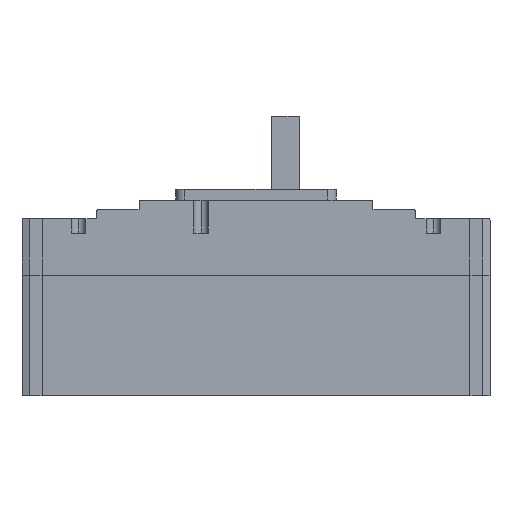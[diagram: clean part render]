
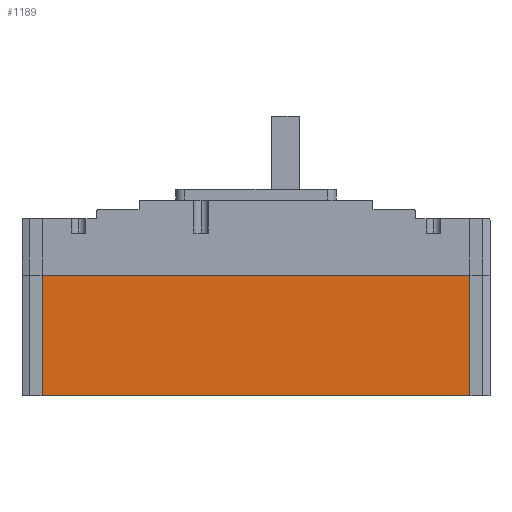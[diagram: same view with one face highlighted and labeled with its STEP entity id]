
A CAD part, left-side view. The second image highlights one B-rep face of the part: STEP entity #1189.
In plain terms, the highlighted planar face has unit normal (-1, 0, 0).
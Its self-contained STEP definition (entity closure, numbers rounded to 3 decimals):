
#392 = VERTEX_POINT ( 'NONE', #8863 ) ;
#396 = VERTEX_POINT ( 'NONE', #8860 ) ;
#1189 = ADVANCED_FACE ( 'NONE', ( #4049 ), #4050, .F. ) ;
#1317 = ORIENTED_EDGE ( 'NONE', *, *, #2512, .F. ) ;
#1877 = EDGE_LOOP ( 'NONE', ( #1317, #6947, #6936, #6937 ) ) ;
#2386 = EDGE_CURVE ( 'NONE', #2761, #2762, #6687, .T. ) ;
#2502 = EDGE_CURVE ( 'NONE', #396, #2762, #7055, .T. ) ;
#2510 = EDGE_CURVE ( 'NONE', #392, #2761, #7079, .T. ) ;
#2512 = EDGE_CURVE ( 'NONE', #392, #396, #7085, .T. ) ;
#2761 = VERTEX_POINT ( 'NONE', #7767 ) ;
#2762 = VERTEX_POINT ( 'NONE', #7768 ) ;
#4041 = CARTESIAN_POINT ( 'NONE',  ( 0., -102.927, 97. ) ) ;
#4049 = FACE_OUTER_BOUND ( 'NONE', #1877, .T. ) ;
#4050 = PLANE ( 'NONE',  #9582 ) ;
#4052 = DIRECTION ( 'NONE',  ( 1., 0., 0. ) ) ;
#4053 = DIRECTION ( 'NONE',  ( 0., 1., 0. ) ) ;
#5560 = VECTOR ( 'NONE', #6697, 1000. ) ;
#5677 = VECTOR ( 'NONE', #7057, 1000. ) ;
#5685 = VECTOR ( 'NONE', #7081, 1000. ) ;
#5687 = VECTOR ( 'NONE', #7087, 1000. ) ;
#6687 = LINE ( 'NONE', #6695, #5560 ) ;
#6695 = CARTESIAN_POINT ( 'NONE',  ( 0., -102.927, 0. ) ) ;
#6697 = DIRECTION ( 'NONE',  ( 0., -1., 0. ) ) ;
#6936 = ORIENTED_EDGE ( 'NONE', *, *, #2386, .T. ) ;
#6937 = ORIENTED_EDGE ( 'NONE', *, *, #2502, .F. ) ;
#6947 = ORIENTED_EDGE ( 'NONE', *, *, #2510, .T. ) ;
#7055 = LINE ( 'NONE', #7056, #5677 ) ;
#7056 = CARTESIAN_POINT ( 'NONE',  ( 0., 11., 97. ) ) ;
#7057 = DIRECTION ( 'NONE',  ( 0., 0., -1. ) ) ;
#7079 = LINE ( 'NONE', #7080, #5685 ) ;
#7080 = CARTESIAN_POINT ( 'NONE',  ( 0., 245., 97. ) ) ;
#7081 = DIRECTION ( 'NONE',  ( 0., 0., -1. ) ) ;
#7085 = LINE ( 'NONE', #7086, #5687 ) ;
#7086 = CARTESIAN_POINT ( 'NONE',  ( 0., -102.927, 65.9 ) ) ;
#7087 = DIRECTION ( 'NONE',  ( 0., -1., 0. ) ) ;
#7767 = CARTESIAN_POINT ( 'NONE',  ( 0., 245., 0. ) ) ;
#7768 = CARTESIAN_POINT ( 'NONE',  ( 0., 11., 0. ) ) ;
#8860 = CARTESIAN_POINT ( 'NONE',  ( 0., 11., 65.9 ) ) ;
#8863 = CARTESIAN_POINT ( 'NONE',  ( 0., 245., 65.9 ) ) ;
#9582 = AXIS2_PLACEMENT_3D ( 'NONE', #4041, #4052, #4053 ) ;
